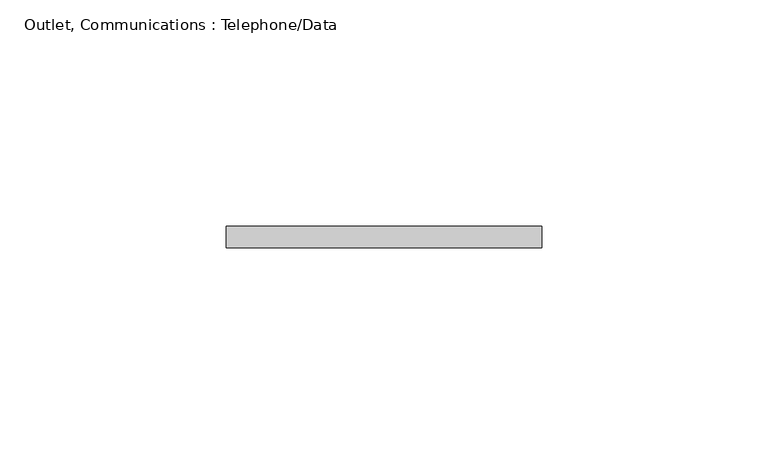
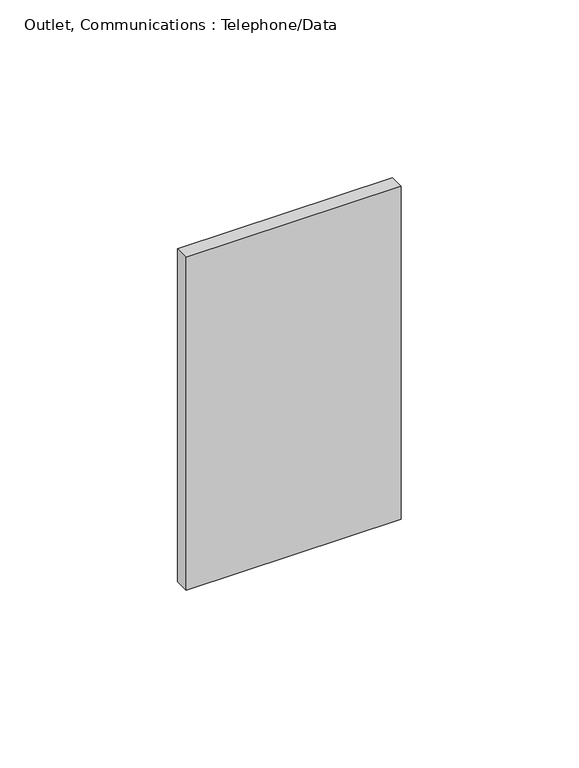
"""IFC4 building model written with IfcOpenShell, lengths in millimetres: proxy geometry, Outlet, Communications : Telephone/Data."""

from ifc_helpers import new_model, si_unit, origin, origin_with_axes, place, context, project, spatial, polyline, outline, extrude, source, transform, mapped, element, save


def outlet_communications_telephone_data_e60629d5(model_context):
    return source(origin(), model_context, "Body", "SweptSolid", [
        extrude(outline(polyline([(34.925, 31.75), (-34.925, 31.75), (-34.925, 36.5125), (34.925, 36.5125), (34.925, 31.75)])), origin_with_axes(), (0.0, 0.0, 1.0), 114.3),
    ])


if __name__ == "__main__":
    model = new_model("IFC4")
    model_context = context("Model", 3, world=origin())
    ifc_project = project(units=[si_unit("LENGTHUNIT", "METRE", prefix="MILLI")], contexts=[model_context])
    site = spatial("IfcSite", under=ifc_project)
    building = spatial("IfcBuilding", under=site)
    placement = place(None, origin())
    outlet_communications_telephone_data_shape = outlet_communications_telephone_data_e60629d5(model_context)
    element("IfcBuildingElementProxy", 1, Name="Outlet, Communications : Telephone/Data", ObjectType="Outlet, Communications : Telephone/Data", at=placement, inside=building, context=model_context, shape_type="MappedRepresentation", body=[
        mapped(outlet_communications_telephone_data_shape, transform((0.0, 0.0, 0.0), x_axis=(1.0, 0.0, 0.0), y_axis=(0.0, 1.0, 0.0), z_axis=(0.0, 0.0, 1.0))),
    ])
    save(model, "model.ifc")
